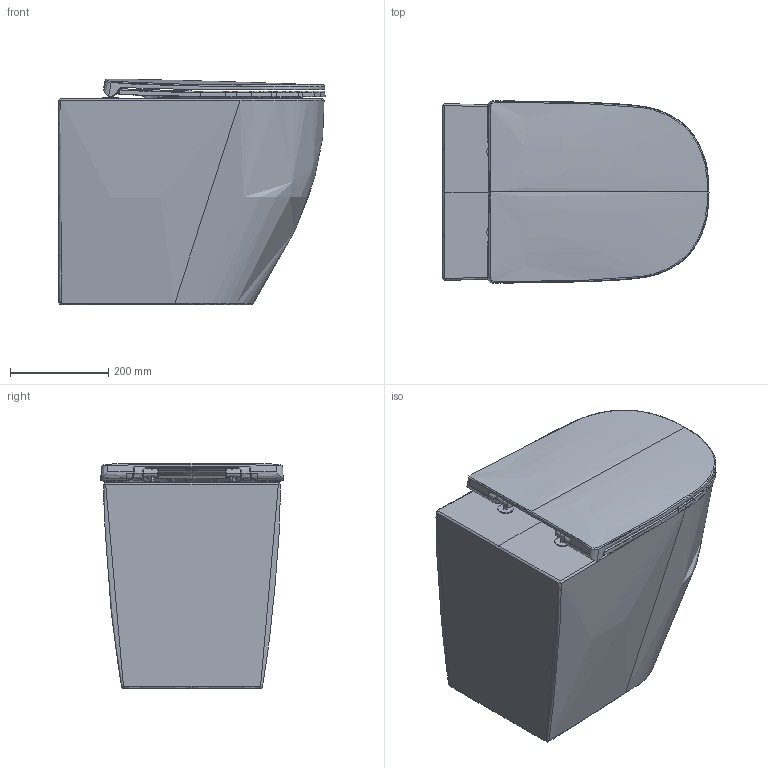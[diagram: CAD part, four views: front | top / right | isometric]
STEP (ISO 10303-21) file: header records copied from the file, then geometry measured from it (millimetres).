
FILE_DESCRIPTION(/* description */ (''),/* implementation_level */ '2;1');
FILE_NAME(/* name */ 'PINWCT~2',/* time_stamp */ '2020-02-26T21:44:09+01:00',/* author */ (''),/* organization */ (''),/* preprocessor_version */ 'ST-DEVELOPER v16.5',/* originating_system */ '',/* authorisation */ '');
FILE_SCHEMA (('AUTOMOTIVE_DESIGN'));
Products named in the file (3): Document; Blocco 02; Blocco 01
Assembly tree (2 placements, depth 2):
  Document
    Blocco 02
    Blocco 01
Bounding box: 542.2 x 371.29 x 459.4 mm (x, y, z)
Volume: 37196.8 mm3; surface area: 1740649.2 mm2
Topology: 14 solids, 102 shells, 1100 faces, 2810 edges, 1801 vertices
Faces by surface type: bspline 842, plane 258
Entity records: 223139 total; most frequent: CARTESIAN_POINT 206076, ORIENTED_EDGE 5143, EDGE_CURVE 2804, B_SPLINE_CURVE_WITH_KNOTS 2155, VERTEX_POINT 1811, EDGE_LOOP 1139, ADVANCED_FACE 1096, FACE_OUTER_BOUND 1096
